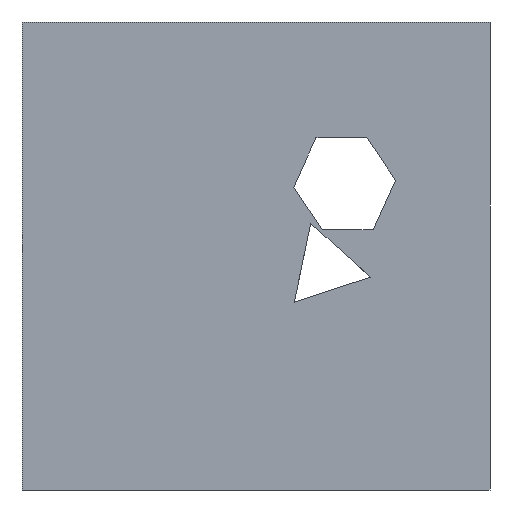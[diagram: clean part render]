
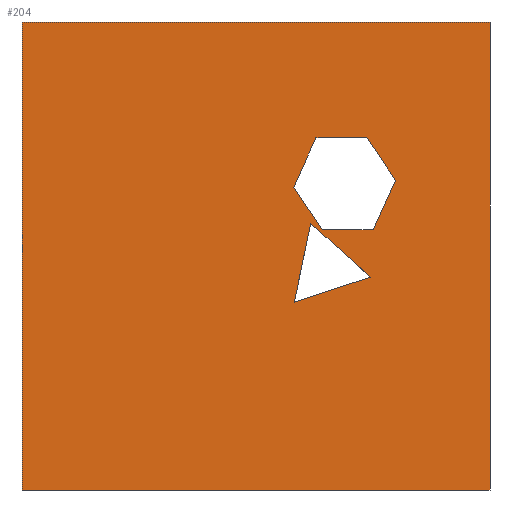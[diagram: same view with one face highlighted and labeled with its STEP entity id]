
A CAD part, front view. The second image highlights one B-rep face of the part: STEP entity #204.
In plain terms, the highlighted planar face has unit normal (0, -1, 0).
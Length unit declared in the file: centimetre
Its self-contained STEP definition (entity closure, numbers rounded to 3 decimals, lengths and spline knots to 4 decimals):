
#24 = LINE ( 'NONE', #1084, #269 ) ;
#32 = VERTEX_POINT ( 'NONE', #275 ) ;
#45 = CARTESIAN_POINT ( 'NONE',  ( 616.946, 0., 569.5956 ) ) ;
#71 = CARTESIAN_POINT ( 'NONE',  ( 0., 0., 0. ) ) ;
#76 = CARTESIAN_POINT ( 'NONE',  ( 0., 0., 1000. ) ) ;
#90 = VECTOR ( 'NONE', #606, 100. ) ;
#91 = ORIENTED_EDGE ( 'NONE', *, *, #1561, .F. ) ;
#122 = FACE_OUTER_BOUND ( 'NONE', #422, .T. ) ;
#124 = ORIENTED_EDGE ( 'NONE', *, *, #213, .T. ) ;
#171 = VECTOR ( 'NONE', #919, 100. ) ;
#176 = CARTESIAN_POINT ( 'NONE',  ( 0., 0., 1000. ) ) ;
#184 = CARTESIAN_POINT ( 'NONE',  ( 798.0277, 0., 662.2543 ) ) ;
#200 = CARTESIAN_POINT ( 'NONE',  ( 736.8904, 0., 752.5351 ) ) ;
#202 = CARTESIAN_POINT ( 'NONE',  ( 581.8286, 0., 401.3039 ) ) ;
#204 = ADVANCED_FACE ( 'NONE', ( #1699, #518, #122 ), #1708, .F. ) ;
#207 = DIRECTION ( 'NONE',  ( -1., 0., 0. ) ) ;
#208 = LINE ( 'NONE', #598, #484 ) ;
#209 = DIRECTION ( 'NONE',  ( -0.41, 0., -0.912 ) ) ;
#210 = CARTESIAN_POINT ( 'NONE',  ( 745.1323, 0., 455.0372 ) ) ;
#213 = EDGE_CURVE ( 'NONE', #274, #1150, #1447, .T. ) ;
#245 = CARTESIAN_POINT ( 'NONE',  ( 0., 0., 0. ) ) ;
#269 = VECTOR ( 'NONE', #1349, 100. ) ;
#271 = VERTEX_POINT ( 'NONE', #45 ) ;
#274 = VERTEX_POINT ( 'NONE', #176 ) ;
#275 = CARTESIAN_POINT ( 'NONE',  ( 750.4109, 0., 556.3614 ) ) ;
#321 = EDGE_LOOP ( 'NONE', ( #1497, #1048, #404 ) ) ;
#337 = VECTOR ( 'NONE', #720, 100. ) ;
#355 = EDGE_CURVE ( 'NONE', #1475, #804, #603, .T. ) ;
#365 = ORIENTED_EDGE ( 'NONE', *, *, #490, .F. ) ;
#370 = VECTOR ( 'NONE', #1017, 100. ) ;
#387 = CARTESIAN_POINT ( 'NONE',  ( 628.1363, 0., 752.5351 ) ) ;
#395 = VERTEX_POINT ( 'NONE', #1508 ) ;
#404 = ORIENTED_EDGE ( 'NONE', *, *, #537, .T. ) ;
#422 = EDGE_LOOP ( 'NONE', ( #1189, #1352, #1544, #124 ) ) ;
#445 = VECTOR ( 'NONE', #1223, 100. ) ;
#484 = VECTOR ( 'NONE', #977, 100. ) ;
#486 = CARTESIAN_POINT ( 'NONE',  ( 641.6569, 0., 556.3614 ) ) ;
#490 = EDGE_CURVE ( 'NONE', #804, #1240, #1267, .T. ) ;
#498 = VERTEX_POINT ( 'NONE', #486 ) ;
#499 = DIRECTION ( 'NONE',  ( 0.204, 0., 0.979 ) ) ;
#516 = LINE ( 'NONE', #1152, #1464 ) ;
#518 = FACE_BOUND ( 'NONE', #1164, .T. ) ;
#520 = VERTEX_POINT ( 'NONE', #880 ) ;
#537 = EDGE_CURVE ( 'NONE', #1574, #395, #1649, .T. ) ;
#598 = CARTESIAN_POINT ( 'NONE',  ( 745.1323, 0., 455.0372 ) ) ;
#603 = LINE ( 'NONE', #200, #1664 ) ;
#606 = DIRECTION ( 'NONE',  ( 1., 0., 0. ) ) ;
#652 = LINE ( 'NONE', #245, #171 ) ;
#654 = DIRECTION ( 'NONE',  ( 0., 1., 0. ) ) ;
#679 = ORIENTED_EDGE ( 'NONE', *, *, #830, .F. ) ;
#712 = EDGE_CURVE ( 'NONE', #271, #1574, #208, .T. ) ;
#720 = DIRECTION ( 'NONE',  ( -0.561, 0., 0.828 ) ) ;
#782 = VECTOR ( 'NONE', #1358, 100. ) ;
#793 = CARTESIAN_POINT ( 'NONE',  ( 0., 0., 1000. ) ) ;
#802 = CARTESIAN_POINT ( 'NONE',  ( 736.8904, 0., 752.5351 ) ) ;
#804 = VERTEX_POINT ( 'NONE', #387 ) ;
#830 = EDGE_CURVE ( 'NONE', #1240, #498, #1672, .T. ) ;
#852 = CARTESIAN_POINT ( 'NONE',  ( 798.0277, 0., 662.2543 ) ) ;
#880 = CARTESIAN_POINT ( 'NONE',  ( 1000., 0., 1000. ) ) ;
#890 = VECTOR ( 'NONE', #209, 100. ) ;
#919 = DIRECTION ( 'NONE',  ( 1., 0., 0. ) ) ;
#930 = ORIENTED_EDGE ( 'NONE', *, *, #1015, .F. ) ;
#970 = LINE ( 'NONE', #852, #337 ) ;
#977 = DIRECTION ( 'NONE',  ( 0.746, 0., -0.666 ) ) ;
#1015 = EDGE_CURVE ( 'NONE', #1454, #1475, #970, .T. ) ;
#1017 = DIRECTION ( 'NONE',  ( -0.95, 0., -0.313 ) ) ;
#1048 = ORIENTED_EDGE ( 'NONE', *, *, #712, .T. ) ;
#1055 = CARTESIAN_POINT ( 'NONE',  ( 0., 0., 1000. ) ) ;
#1058 = ORIENTED_EDGE ( 'NONE', *, *, #355, .F. ) ;
#1084 = CARTESIAN_POINT ( 'NONE',  ( 641.6569, 0., 556.3614 ) ) ;
#1102 = CARTESIAN_POINT ( 'NONE',  ( 1000., 0., 0. ) ) ;
#1136 = VECTOR ( 'NONE', #1366, 100. ) ;
#1150 = VERTEX_POINT ( 'NONE', #71 ) ;
#1152 = CARTESIAN_POINT ( 'NONE',  ( 616.946, 0., 569.5956 ) ) ;
#1157 = VECTOR ( 'NONE', #1538, 100. ) ;
#1164 = EDGE_LOOP ( 'NONE', ( #930, #1495, #91, #679, #365, #1058 ) ) ;
#1189 = ORIENTED_EDGE ( 'NONE', *, *, #1300, .T. ) ;
#1223 = DIRECTION ( 'NONE',  ( 0.41, 0., 0.912 ) ) ;
#1233 = AXIS2_PLACEMENT_3D ( 'NONE', #1055, #654, #1581 ) ;
#1240 = VERTEX_POINT ( 'NONE', #1299 ) ;
#1267 = LINE ( 'NONE', #1379, #890 ) ;
#1299 = CARTESIAN_POINT ( 'NONE',  ( 580.5195, 0., 646.6422 ) ) ;
#1300 = EDGE_CURVE ( 'NONE', #1150, #1486, #652, .T. ) ;
#1349 = DIRECTION ( 'NONE',  ( 1., 0., 0. ) ) ;
#1351 = CARTESIAN_POINT ( 'NONE',  ( 1000., 0., 1000. ) ) ;
#1352 = ORIENTED_EDGE ( 'NONE', *, *, #1391, .F. ) ;
#1357 = EDGE_CURVE ( 'NONE', #395, #271, #516, .T. ) ;
#1358 = DIRECTION ( 'NONE',  ( 0., 0., -1. ) ) ;
#1359 = LINE ( 'NONE', #1351, #1136 ) ;
#1363 = CARTESIAN_POINT ( 'NONE',  ( 750.4109, 0., 556.3614 ) ) ;
#1366 = DIRECTION ( 'NONE',  ( 0., 0., -1. ) ) ;
#1379 = CARTESIAN_POINT ( 'NONE',  ( 628.1363, 0., 752.5351 ) ) ;
#1391 = EDGE_CURVE ( 'NONE', #520, #1486, #1359, .T. ) ;
#1447 = LINE ( 'NONE', #793, #782 ) ;
#1454 = VERTEX_POINT ( 'NONE', #184 ) ;
#1464 = VECTOR ( 'NONE', #499, 100. ) ;
#1475 = VERTEX_POINT ( 'NONE', #802 ) ;
#1486 = VERTEX_POINT ( 'NONE', #1102 ) ;
#1491 = LINE ( 'NONE', #1363, #445 ) ;
#1495 = ORIENTED_EDGE ( 'NONE', *, *, #1537, .F. ) ;
#1497 = ORIENTED_EDGE ( 'NONE', *, *, #1357, .T. ) ;
#1508 = CARTESIAN_POINT ( 'NONE',  ( 581.8286, 0., 401.3039 ) ) ;
#1537 = EDGE_CURVE ( 'NONE', #32, #1454, #1491, .T. ) ;
#1538 = DIRECTION ( 'NONE',  ( 0.561, 0., -0.828 ) ) ;
#1544 = ORIENTED_EDGE ( 'NONE', *, *, #1670, .F. ) ;
#1550 = LINE ( 'NONE', #76, #90 ) ;
#1561 = EDGE_CURVE ( 'NONE', #498, #32, #24, .T. ) ;
#1574 = VERTEX_POINT ( 'NONE', #210 ) ;
#1580 = CARTESIAN_POINT ( 'NONE',  ( 580.5195, 0., 646.6422 ) ) ;
#1581 = DIRECTION ( 'NONE',  ( 0., 0., 1. ) ) ;
#1649 = LINE ( 'NONE', #202, #370 ) ;
#1664 = VECTOR ( 'NONE', #207, 100. ) ;
#1670 = EDGE_CURVE ( 'NONE', #274, #520, #1550, .T. ) ;
#1672 = LINE ( 'NONE', #1580, #1157 ) ;
#1699 = FACE_BOUND ( 'NONE', #321, .T. ) ;
#1708 = PLANE ( 'NONE',  #1233 ) ;
